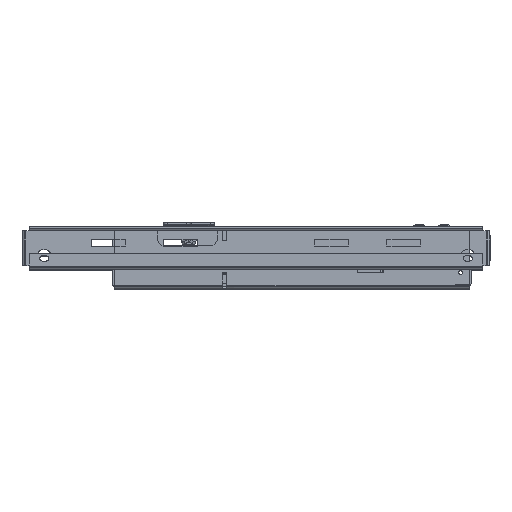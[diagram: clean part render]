
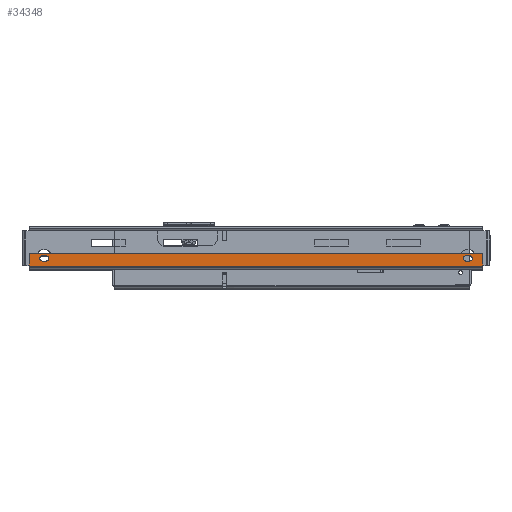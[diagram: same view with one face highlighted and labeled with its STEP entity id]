
A CAD part, left-side view. The second image highlights one B-rep face of the part: STEP entity #34348.
In plain terms, the highlighted planar face has unit normal (-1, 0, 0) as drawn and (0, 0, -1) by its records, which use the part's own axes.
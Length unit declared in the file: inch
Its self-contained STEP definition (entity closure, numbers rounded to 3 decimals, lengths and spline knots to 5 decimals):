
#12487 = CARTESIAN_POINT ( 'NONE',  ( 25.484, 2.368, 0. ) ) ;
#12492 = PLANE ( 'NONE',  #13264 ) ;
#12493 = DIRECTION ( 'NONE',  ( 0., 0., -1. ) ) ;
#12494 = DIRECTION ( 'NONE',  ( -1., 0., 0. ) ) ;
#13264 = AXIS2_PLACEMENT_3D ( 'NONE', #12487, #12493, #12494 ) ;
#13316 = FACE_BOUND ( 'NONE', #27047, .T. ) ;
#13320 = FACE_BOUND ( 'NONE', #27022, .T. ) ;
#13323 = FACE_OUTER_BOUND ( 'NONE', #27028, .T. ) ;
#13596 = AXIS2_PLACEMENT_3D ( 'NONE', #14308, #14311, #14312 ) ;
#13599 = AXIS2_PLACEMENT_3D ( 'NONE', #14321, #14323, #14324 ) ;
#14308 = CARTESIAN_POINT ( 'NONE',  ( 24.3865, 1.745, 0. ) ) ;
#14311 = DIRECTION ( 'NONE',  ( 0., 0., 1. ) ) ;
#14312 = DIRECTION ( 'NONE',  ( 1., 0., 0. ) ) ;
#14321 = CARTESIAN_POINT ( 'NONE',  ( 1.3165, 1.745, 0. ) ) ;
#14323 = DIRECTION ( 'NONE',  ( 0., 0., 1. ) ) ;
#14324 = DIRECTION ( 'NONE',  ( 1., 0., 0. ) ) ;
#14827 = CARTESIAN_POINT ( 'NONE',  ( 25.084, 2.368, 0. ) ) ;
#14833 = CARTESIAN_POINT ( 'NONE',  ( 24.1675, 1.745, 0. ) ) ;
#14834 = CARTESIAN_POINT ( 'NONE',  ( 25.484, 1.476, 0. ) ) ;
#14835 = DIRECTION ( 'NONE',  ( -1., 0., 0. ) ) ;
#14836 = CARTESIAN_POINT ( 'NONE',  ( 24.3865, 1.745, 0. ) ) ;
#14837 = DIRECTION ( 'NONE',  ( 0., -1., 0. ) ) ;
#14838 = CARTESIAN_POINT ( 'NONE',  ( 1.0975, 1.745, 0. ) ) ;
#14839 = DIRECTION ( 'NONE',  ( 0., 0., 1. ) ) ;
#14840 = DIRECTION ( 'NONE',  ( 1., 0., 0. ) ) ;
#14843 = CARTESIAN_POINT ( 'NONE',  ( 24.1675, 1.8855, 0. ) ) ;
#14844 = DIRECTION ( 'NONE',  ( -1., 0., 0. ) ) ;
#14845 = CARTESIAN_POINT ( 'NONE',  ( 24.1675, 1.6045, 0. ) ) ;
#14846 = DIRECTION ( 'NONE',  ( 1., 0., 0. ) ) ;
#14847 = CARTESIAN_POINT ( 'NONE',  ( 1.3165, 1.745, 0. ) ) ;
#14848 = DIRECTION ( 'NONE',  ( 0., 0., 1. ) ) ;
#14849 = DIRECTION ( 'NONE',  ( 1., 0., 0. ) ) ;
#14850 = DIRECTION ( 'NONE',  ( 0., 0., 1. ) ) ;
#14851 = DIRECTION ( 'NONE',  ( 1., 0., 0. ) ) ;
#14852 = CARTESIAN_POINT ( 'NONE',  ( 1.0975, 1.6045, 0. ) ) ;
#14853 = DIRECTION ( 'NONE',  ( 1., 0., 0. ) ) ;
#14854 = DIRECTION ( 'NONE',  ( 0., 0., 1. ) ) ;
#14855 = DIRECTION ( 'NONE',  ( 1., 0., 0. ) ) ;
#15156 = CIRCLE ( 'NONE', #13596, 0.1405 ) ;
#15163 = CIRCLE ( 'NONE', #13599, 0.1405 ) ;
#17234 = VERTEX_POINT ( 'NONE', #49836 ) ;
#17235 = VERTEX_POINT ( 'NONE', #49837 ) ;
#17238 = VERTEX_POINT ( 'NONE', #49840 ) ;
#17239 = VERTEX_POINT ( 'NONE', #49841 ) ;
#17570 = AXIS2_PLACEMENT_3D ( 'NONE', #14836, #14839, #14840 ) ;
#17578 = AXIS2_PLACEMENT_3D ( 'NONE', #14838, #14850, #14851 ) ;
#17580 = AXIS2_PLACEMENT_3D ( 'NONE', #14833, #14848, #14849 ) ;
#17585 = AXIS2_PLACEMENT_3D ( 'NONE', #14847, #14854, #14855 ) ;
#18143 = LINE ( 'NONE', #14827, #18165 ) ;
#18161 = LINE ( 'NONE', #14834, #18163 ) ;
#18163 = VECTOR ( 'NONE', #14835, 39.37008 ) ;
#18165 = VECTOR ( 'NONE', #14837, 39.37008 ) ;
#18169 = LINE ( 'NONE', #14852, #18186 ) ;
#18171 = VECTOR ( 'NONE', #18380, 39.37008 ) ;
#18173 = CIRCLE ( 'NONE', #17570, 0.1405 ) ;
#18175 = LINE ( 'NONE', #14843, #18177 ) ;
#18177 = VECTOR ( 'NONE', #14844, 39.37008 ) ;
#18179 = LINE ( 'NONE', #14845, #18181 ) ;
#18181 = VECTOR ( 'NONE', #14846, 39.37008 ) ;
#18184 = LINE ( 'NONE', #18372, #18190 ) ;
#18186 = VECTOR ( 'NONE', #14853, 39.37008 ) ;
#18188 = CIRCLE ( 'NONE', #17580, 0.1405 ) ;
#18190 = VECTOR ( 'NONE', #18373, 39.37008 ) ;
#18192 = CIRCLE ( 'NONE', #17578, 0.1405 ) ;
#18195 = LINE ( 'NONE', #18379, #18171 ) ;
#18198 = CIRCLE ( 'NONE', #17585, 0.1405 ) ;
#18209 = LINE ( 'NONE', #18382, #18211 ) ;
#18211 = VECTOR ( 'NONE', #18383, 39.37008 ) ;
#18372 = CARTESIAN_POINT ( 'NONE',  ( 1.0975, 1.8855, 0. ) ) ;
#18373 = DIRECTION ( 'NONE',  ( -1., 0., 0. ) ) ;
#18379 = CARTESIAN_POINT ( 'NONE',  ( 0.4, 2.368, 0. ) ) ;
#18380 = DIRECTION ( 'NONE',  ( 0., 1., 0. ) ) ;
#18382 = CARTESIAN_POINT ( 'NONE',  ( 25.484, 2.16, 0. ) ) ;
#18383 = DIRECTION ( 'NONE',  ( -1., 0., 0. ) ) ;
#19739 = CARTESIAN_POINT ( 'NONE',  ( 25.084, 1.476, 0. ) ) ;
#19741 = CARTESIAN_POINT ( 'NONE',  ( 0.4, 1.476, 0. ) ) ;
#19742 = CARTESIAN_POINT ( 'NONE',  ( 24.1675, 1.8855, 0. ) ) ;
#19744 = CARTESIAN_POINT ( 'NONE',  ( 24.1675, 1.6045, 0. ) ) ;
#19746 = CARTESIAN_POINT ( 'NONE',  ( 24.3865, 1.6045, 0. ) ) ;
#19748 = CARTESIAN_POINT ( 'NONE',  ( 1.0975, 1.8855, 0. ) ) ;
#19750 = CARTESIAN_POINT ( 'NONE',  ( 1.0975, 1.6045, 0. ) ) ;
#19752 = CARTESIAN_POINT ( 'NONE',  ( 1.3165, 1.6045, 0. ) ) ;
#19753 = CARTESIAN_POINT ( 'NONE',  ( 25.084, 2.16, 0. ) ) ;
#19755 = CARTESIAN_POINT ( 'NONE',  ( 0.4, 2.16, 0. ) ) ;
#27022 = EDGE_LOOP ( 'NONE', ( #37087, #37088, #37089, #37090, #37091 ) ) ;
#27028 = EDGE_LOOP ( 'NONE', ( #37097, #37098, #37099, #37100 ) ) ;
#27047 = EDGE_LOOP ( 'NONE', ( #37092, #37093, #37094, #37095, #37096 ) ) ;
#34348 = ADVANCED_FACE ( 'NONE', ( #13320, #13316, #13323 ), #12492, .T. ) ;
#34541 = EDGE_CURVE ( 'NONE', #17234, #17235, #15156, .T. ) ;
#34546 = EDGE_CURVE ( 'NONE', #17238, #17239, #15163, .T. ) ;
#34758 = EDGE_CURVE ( 'NONE', #37439, #37440, #18161, .T. ) ;
#34759 = EDGE_CURVE ( 'NONE', #37447, #37439, #18143, .T. ) ;
#34760 = EDGE_CURVE ( 'NONE', #37443, #17234, #18173, .T. ) ;
#34762 = EDGE_CURVE ( 'NONE', #17235, #37441, #18175, .T. ) ;
#34763 = EDGE_CURVE ( 'NONE', #37442, #37443, #18179, .T. ) ;
#34764 = EDGE_CURVE ( 'NONE', #37441, #37442, #18188, .T. ) ;
#34765 = EDGE_CURVE ( 'NONE', #37444, #37445, #18192, .T. ) ;
#34766 = EDGE_CURVE ( 'NONE', #37445, #37446, #18169, .T. ) ;
#34767 = EDGE_CURVE ( 'NONE', #37446, #17238, #18198, .T. ) ;
#34768 = EDGE_CURVE ( 'NONE', #17239, #37444, #18184, .T. ) ;
#34771 = EDGE_CURVE ( 'NONE', #37440, #37448, #18195, .T. ) ;
#34772 = EDGE_CURVE ( 'NONE', #37447, #37448, #18209, .T. ) ;
#37087 = ORIENTED_EDGE ( 'NONE', *, *, #34764, .T. ) ;
#37088 = ORIENTED_EDGE ( 'NONE', *, *, #34763, .T. ) ;
#37089 = ORIENTED_EDGE ( 'NONE', *, *, #34760, .T. ) ;
#37090 = ORIENTED_EDGE ( 'NONE', *, *, #34541, .T. ) ;
#37091 = ORIENTED_EDGE ( 'NONE', *, *, #34762, .T. ) ;
#37092 = ORIENTED_EDGE ( 'NONE', *, *, #34765, .T. ) ;
#37093 = ORIENTED_EDGE ( 'NONE', *, *, #34766, .T. ) ;
#37094 = ORIENTED_EDGE ( 'NONE', *, *, #34767, .T. ) ;
#37095 = ORIENTED_EDGE ( 'NONE', *, *, #34546, .T. ) ;
#37096 = ORIENTED_EDGE ( 'NONE', *, *, #34768, .T. ) ;
#37097 = ORIENTED_EDGE ( 'NONE', *, *, #34759, .T. ) ;
#37098 = ORIENTED_EDGE ( 'NONE', *, *, #34758, .T. ) ;
#37099 = ORIENTED_EDGE ( 'NONE', *, *, #34771, .T. ) ;
#37100 = ORIENTED_EDGE ( 'NONE', *, *, #34772, .F. ) ;
#37439 = VERTEX_POINT ( 'NONE', #19739 ) ;
#37440 = VERTEX_POINT ( 'NONE', #19741 ) ;
#37441 = VERTEX_POINT ( 'NONE', #19742 ) ;
#37442 = VERTEX_POINT ( 'NONE', #19744 ) ;
#37443 = VERTEX_POINT ( 'NONE', #19746 ) ;
#37444 = VERTEX_POINT ( 'NONE', #19748 ) ;
#37445 = VERTEX_POINT ( 'NONE', #19750 ) ;
#37446 = VERTEX_POINT ( 'NONE', #19752 ) ;
#37447 = VERTEX_POINT ( 'NONE', #19753 ) ;
#37448 = VERTEX_POINT ( 'NONE', #19755 ) ;
#49836 = CARTESIAN_POINT ( 'NONE',  ( 24.527, 1.745, 0. ) ) ;
#49837 = CARTESIAN_POINT ( 'NONE',  ( 24.3865, 1.8855, 0. ) ) ;
#49840 = CARTESIAN_POINT ( 'NONE',  ( 1.457, 1.745, 0. ) ) ;
#49841 = CARTESIAN_POINT ( 'NONE',  ( 1.3165, 1.8855, 0. ) ) ;
